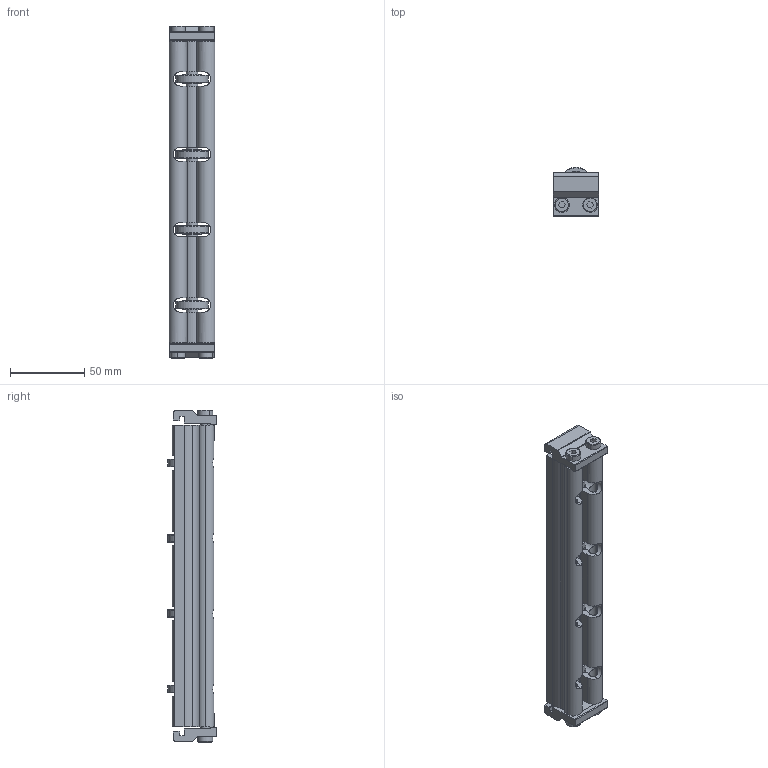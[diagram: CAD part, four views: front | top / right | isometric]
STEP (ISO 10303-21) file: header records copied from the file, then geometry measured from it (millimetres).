
FILE_DESCRIPTION((''),'2;1');
FILE_NAME('206523-08_ASM','2023-02-27T',('jenni.wallner'),(''),'PRO/ENGINEER BY PARAMETRIC TECHNOLOGY CORPORATION, 2012420','PRO/ENGINEER BY PARAMETRIC TECHNOLOGY CORPORATION, 2012420','');
FILE_SCHEMA(('CONFIG_CONTROL_DESIGN'));
Length unit declared in the file: inch
Products named in the file (7): 9506XXM_950616M; 205977_205978_205979_205978; 240826; 2410WW_241008; 2436WW_243608; ASM0001_ASM; 206523-08_ASM
Assembly tree (13 placements, depth 3):
  206523-08_ASM
    ASM0001_ASM
      9506XXM_950616M  x4
      205977_205978_205979_205978  x2
      240826  x4
      2410WW_241008
      2436WW_243608
Bounding box: 30.89 x 33.01 x 223.75 mm (x, y, z)
Volume: 107777.1 mm3; surface area: 67225.5 mm2
Topology: 12 solids, 12 shells, 366 faces, 994 edges, 652 vertices
Faces by surface type: cylinder 160, plane 138, cone 52, torus 16
Entity records: 8531 total; most frequent: CARTESIAN_POINT 2026, DIRECTION 1393, ORIENTED_EDGE 1346, EDGE_CURVE 673, AXIS2_PLACEMENT_3D 533, VERTEX_POINT 446, VECTOR 327, LINE 327
